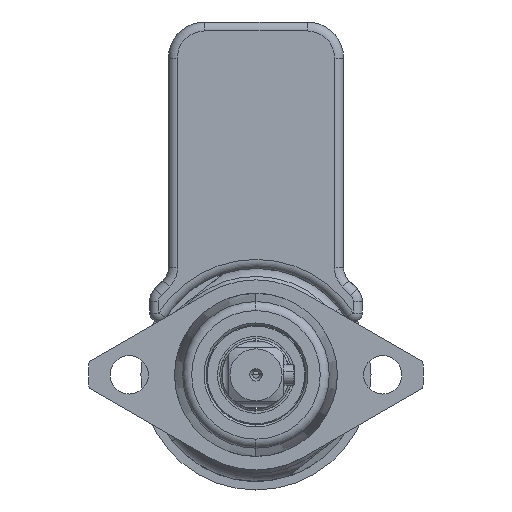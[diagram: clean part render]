
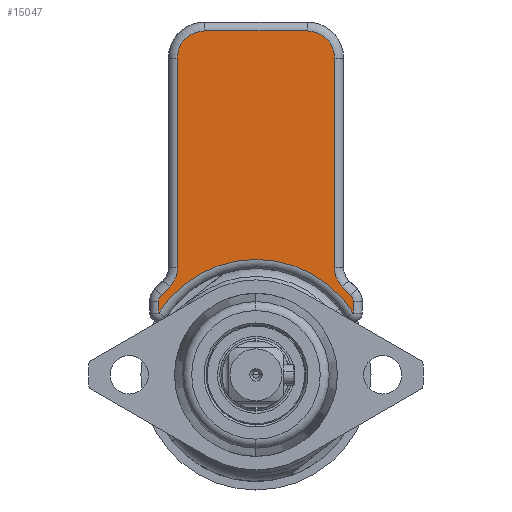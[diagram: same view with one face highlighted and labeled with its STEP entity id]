
A CAD part, left-side view. The second image highlights one B-rep face of the part: STEP entity #15047.
In plain terms, the highlighted planar face has unit normal (-1, 0, 0).
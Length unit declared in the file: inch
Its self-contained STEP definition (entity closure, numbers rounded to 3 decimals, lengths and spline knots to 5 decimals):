
#11 = CARTESIAN_POINT ( 'NONE',  ( -2.25852, 0.61, 2.41284 ) ) ;
#2870 = ORIENTED_EDGE ( 'NONE', *, *, #24137, .T. ) ;
#2871 = ORIENTED_EDGE ( 'NONE', *, *, #11917, .T. ) ;
#2872 = ORIENTED_EDGE ( 'NONE', *, *, #11914, .T. ) ;
#2873 = ORIENTED_EDGE ( 'NONE', *, *, #11911, .T. ) ;
#2874 = ORIENTED_EDGE ( 'NONE', *, *, #11904, .T. ) ;
#2875 = ORIENTED_EDGE ( 'NONE', *, *, #4610, .T. ) ;
#2876 = ORIENTED_EDGE ( 'NONE', *, *, #22955, .T. ) ;
#2891 = ORIENTED_EDGE ( 'NONE', *, *, #25566, .T. ) ;
#2895 = ORIENTED_EDGE ( 'NONE', *, *, #23145, .T. ) ;
#2935 = ORIENTED_EDGE ( 'NONE', *, *, #23149, .T. ) ;
#2936 = ORIENTED_EDGE ( 'NONE', *, *, #23143, .T. ) ;
#2938 = ORIENTED_EDGE ( 'NONE', *, *, #24482, .T. ) ;
#2941 = ORIENTED_EDGE ( 'NONE', *, *, #24140, .T. ) ;
#2942 = ORIENTED_EDGE ( 'NONE', *, *, #11899, .T. ) ;
#3793 = CARTESIAN_POINT ( 'NONE',  ( -2.25852, 0.543, 2.22484 ) ) ;
#3808 = CARTESIAN_POINT ( 'NONE',  ( -2.25852, 0.673, 0.54306 ) ) ;
#3809 = CARTESIAN_POINT ( 'NONE',  ( -2.25852, 0.59777, 0.64438 ) ) ;
#3849 = CARTESIAN_POINT ( 'NONE',  ( -2.25852, 0.543, 0.77661 ) ) ;
#3931 = DIRECTION ( 'NONE',  ( 0., 1., 0. ) ) ;
#3932 = DIRECTION ( 'NONE',  ( -1., 0., 0. ) ) ;
#3933 = CARTESIAN_POINT ( 'NONE',  ( -2.25852, 0.61, 0.54306 ) ) ;
#3934 = DIRECTION ( 'NONE',  ( 0., 0., 1. ) ) ;
#3939 = CARTESIAN_POINT ( 'NONE',  ( -2.25852, -0.543, 0.54306 ) ) ;
#3944 = DIRECTION ( 'NONE',  ( 0., 0.707, 0.707 ) ) ;
#3945 = CARTESIAN_POINT ( 'NONE',  ( -2.25852, -0.04455, 1.19761 ) ) ;
#4610 = EDGE_CURVE ( 'NONE', #23462, #25406, #4625, .T. ) ;
#4625 = LINE ( 'NONE', #32153, #4628 ) ;
#4628 = VECTOR ( 'NONE', #32149, 39.37008 ) ;
#5074 = CIRCLE ( 'NONE', #22136, 0.188 ) ;
#5090 = CIRCLE ( 'NONE', #22140, 0.187 ) ;
#5099 = LINE ( 'NONE', #32493, #5104 ) ;
#5104 = VECTOR ( 'NONE', #32486, 39.37008 ) ;
#5110 = CIRCLE ( 'NONE', #22139, 0.063 ) ;
#5116 = CIRCLE ( 'NONE', #22138, 0.187 ) ;
#7884 = DIRECTION ( 'NONE',  ( 0., 1., 0. ) ) ;
#7888 = DIRECTION ( 'NONE',  ( -1., 0., 0. ) ) ;
#7893 = PLANE ( 'NONE',  #21748 ) ;
#7895 = CARTESIAN_POINT ( 'NONE',  ( -2.25852, 0.61, 0.54306 ) ) ;
#9185 = FACE_OUTER_BOUND ( 'NONE', #10971, .T. ) ;
#10971 = EDGE_LOOP ( 'NONE', ( #2938, #2942, #2876, #2895, #2875, #2891, #2874, #2873, #2936, #2872, #2935, #2871, #2870, #2941 ) ) ;
#11534 = DIRECTION ( 'NONE',  ( 0., 0.707, -0.707 ) ) ;
#11536 = CARTESIAN_POINT ( 'NONE',  ( -2.25852, 0.65455, 0.58761 ) ) ;
#11899 = EDGE_CURVE ( 'NONE', #23378, #23439, #5090, .T. ) ;
#11904 = EDGE_CURVE ( 'NONE', #25409, #24184, #5099, .T. ) ;
#11911 = EDGE_CURVE ( 'NONE', #24184, #25342, #5110, .T. ) ;
#11914 = EDGE_CURVE ( 'NONE', #25390, #23625, #5116, .T. ) ;
#11917 = EDGE_CURVE ( 'NONE', #23934, #25412, #5074, .T. ) ;
#15047 = ADVANCED_FACE ( 'NONE', ( #9185 ), #7893, .T. ) ;
#17998 = AXIS2_PLACEMENT_3D ( 'NONE', #3933, #3932, #3931 ) ;
#18030 = AXIS2_PLACEMENT_3D ( 'NONE', #33451, #33516, #33224 ) ;
#18049 = AXIS2_PLACEMENT_3D ( 'NONE', #21363, #21364, #21365 ) ;
#19154 = LINE ( 'NONE', #11536, #19156 ) ;
#19156 = VECTOR ( 'NONE', #11534, 39.37008 ) ;
#19275 = LINE ( 'NONE', #3945, #19277 ) ;
#19276 = CIRCLE ( 'NONE', #17998, 0.063 ) ;
#19277 = VECTOR ( 'NONE', #3944, 39.37008 ) ;
#19279 = LINE ( 'NONE', #3939, #19281 ) ;
#19281 = VECTOR ( 'NONE', #3934, 39.37008 ) ;
#19376 = CIRCLE ( 'NONE', #18030, 0.188 ) ;
#19377 = LINE ( 'NONE', #11, #19380 ) ;
#19380 = VECTOR ( 'NONE', #33084, 39.37008 ) ;
#19588 = LINE ( 'NONE', #33391, #19597 ) ;
#19597 = VECTOR ( 'NONE', #33386, 39.37008 ) ;
#20215 = CIRCLE ( 'NONE', #18049, 0.797 ) ;
#20954 = CARTESIAN_POINT ( 'NONE',  ( -2.25852, -0.65455, 0.58761 ) ) ;
#20997 = CARTESIAN_POINT ( 'NONE',  ( -2.25852, -0.59777, 0.64438 ) ) ;
#21007 = CARTESIAN_POINT ( 'NONE',  ( -2.25852, -0.355, 2.41284 ) ) ;
#21009 = CARTESIAN_POINT ( 'NONE',  ( -2.25852, 0.673, 0.46478 ) ) ;
#21010 = CARTESIAN_POINT ( 'NONE',  ( -2.25852, 0.65455, 0.58761 ) ) ;
#21011 = CARTESIAN_POINT ( 'NONE',  ( -2.25852, -0.673, 0.46478 ) ) ;
#21013 = CARTESIAN_POINT ( 'NONE',  ( -2.25852, 0.355, 2.41284 ) ) ;
#21363 = CARTESIAN_POINT ( 'NONE',  ( -2.25852, 0., 0.03784 ) ) ;
#21364 = DIRECTION ( 'NONE',  ( 1., 0., 0. ) ) ;
#21365 = DIRECTION ( 'NONE',  ( 0., 1., 0. ) ) ;
#21748 = AXIS2_PLACEMENT_3D ( 'NONE', #7895, #7888, #7884 ) ;
#22136 = AXIS2_PLACEMENT_3D ( 'NONE', #32557, #32555, #32554 ) ;
#22138 = AXIS2_PLACEMENT_3D ( 'NONE', #32571, #32569, #32566 ) ;
#22139 = AXIS2_PLACEMENT_3D ( 'NONE', #32459, #32456, #32455 ) ;
#22140 = AXIS2_PLACEMENT_3D ( 'NONE', #32503, #32500, #32499 ) ;
#22955 = EDGE_CURVE ( 'NONE', #23439, #25407, #19154, .T. ) ;
#23143 = EDGE_CURVE ( 'NONE', #25342, #25390, #19275, .T. ) ;
#23145 = EDGE_CURVE ( 'NONE', #25407, #23462, #19276, .T. ) ;
#23149 = EDGE_CURVE ( 'NONE', #23625, #23934, #19279, .T. ) ;
#23378 = VERTEX_POINT ( 'NONE', #3849 ) ;
#23439 = VERTEX_POINT ( 'NONE', #3809 ) ;
#23462 = VERTEX_POINT ( 'NONE', #3808 ) ;
#23557 = VERTEX_POINT ( 'NONE', #3793 ) ;
#23625 = VERTEX_POINT ( 'NONE', #33119 ) ;
#23934 = VERTEX_POINT ( 'NONE', #33172 ) ;
#24137 = EDGE_CURVE ( 'NONE', #25412, #25413, #19377, .T. ) ;
#24140 = EDGE_CURVE ( 'NONE', #25413, #23557, #19376, .T. ) ;
#24184 = VERTEX_POINT ( 'NONE', #33160 ) ;
#24482 = EDGE_CURVE ( 'NONE', #23557, #23378, #19588, .T. ) ;
#25342 = VERTEX_POINT ( 'NONE', #20954 ) ;
#25390 = VERTEX_POINT ( 'NONE', #20997 ) ;
#25406 = VERTEX_POINT ( 'NONE', #21009 ) ;
#25407 = VERTEX_POINT ( 'NONE', #21010 ) ;
#25409 = VERTEX_POINT ( 'NONE', #21011 ) ;
#25412 = VERTEX_POINT ( 'NONE', #21007 ) ;
#25413 = VERTEX_POINT ( 'NONE', #21013 ) ;
#25566 = EDGE_CURVE ( 'NONE', #25406, #25409, #20215, .T. ) ;
#32149 = DIRECTION ( 'NONE',  ( 0., 0., -1. ) ) ;
#32153 = CARTESIAN_POINT ( 'NONE',  ( -2.25852, 0.673, 0.54306 ) ) ;
#32455 = DIRECTION ( 'NONE',  ( 0., 1., 0. ) ) ;
#32456 = DIRECTION ( 'NONE',  ( -1., 0., 0. ) ) ;
#32459 = CARTESIAN_POINT ( 'NONE',  ( -2.25852, -0.61, 0.54306 ) ) ;
#32486 = DIRECTION ( 'NONE',  ( 0., 0., 1. ) ) ;
#32493 = CARTESIAN_POINT ( 'NONE',  ( -2.25852, -0.673, 0.54306 ) ) ;
#32499 = DIRECTION ( 'NONE',  ( 0., 1., 0. ) ) ;
#32500 = DIRECTION ( 'NONE',  ( 1., 0., 0. ) ) ;
#32503 = CARTESIAN_POINT ( 'NONE',  ( -2.25852, 0.73, 0.77661 ) ) ;
#32554 = DIRECTION ( 'NONE',  ( 0., 1., 0. ) ) ;
#32555 = DIRECTION ( 'NONE',  ( -1., 0., 0. ) ) ;
#32557 = CARTESIAN_POINT ( 'NONE',  ( -2.25852, -0.355, 2.22484 ) ) ;
#32566 = DIRECTION ( 'NONE',  ( 0., 1., 0. ) ) ;
#32569 = DIRECTION ( 'NONE',  ( 1., 0., 0. ) ) ;
#32571 = CARTESIAN_POINT ( 'NONE',  ( -2.25852, -0.73, 0.77661 ) ) ;
#33084 = DIRECTION ( 'NONE',  ( 0., 1., 0. ) ) ;
#33119 = CARTESIAN_POINT ( 'NONE',  ( -2.25852, -0.543, 0.77661 ) ) ;
#33160 = CARTESIAN_POINT ( 'NONE',  ( -2.25852, -0.673, 0.54306 ) ) ;
#33172 = CARTESIAN_POINT ( 'NONE',  ( -2.25852, -0.543, 2.22484 ) ) ;
#33224 = DIRECTION ( 'NONE',  ( 0., 1., 0. ) ) ;
#33386 = DIRECTION ( 'NONE',  ( 0., 0., -1. ) ) ;
#33391 = CARTESIAN_POINT ( 'NONE',  ( -2.25852, 0.543, 0.54306 ) ) ;
#33451 = CARTESIAN_POINT ( 'NONE',  ( -2.25852, 0.355, 2.22484 ) ) ;
#33516 = DIRECTION ( 'NONE',  ( -1., 0., 0. ) ) ;
